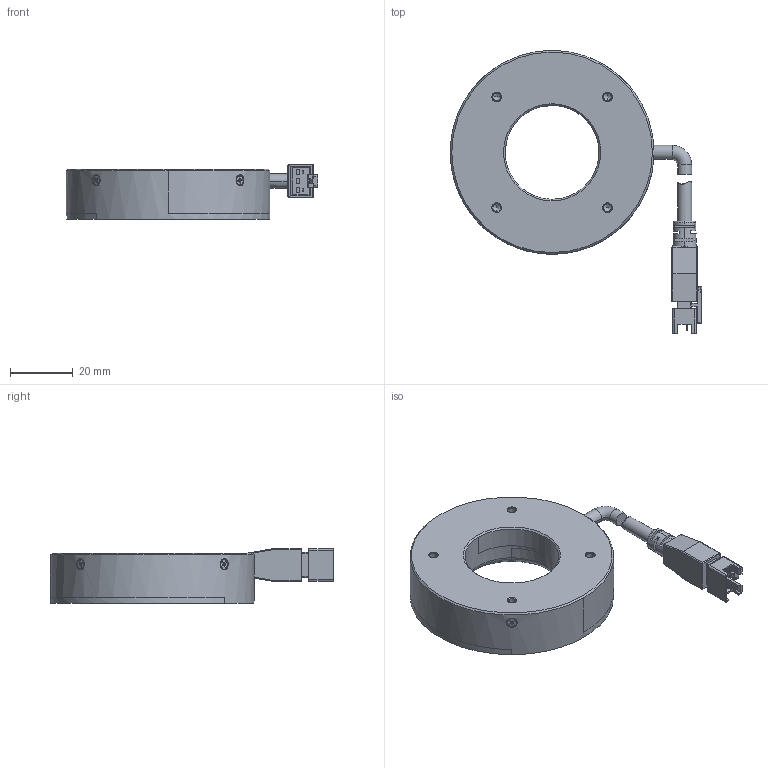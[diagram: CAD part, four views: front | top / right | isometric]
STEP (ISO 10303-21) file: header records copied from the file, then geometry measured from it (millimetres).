
FILE_DESCRIPTION((''),'2;1');
FILE_NAME('65-60','2024-01-30T10:17:06',('qiaoxuan5'),(''),'CREO PARAMETRIC BY PTC INC, 2020044','CREO PARAMETRIC BY PTC INC, 2020044','');
FILE_SCHEMA(('CONFIG_CONTROL_DESIGN'));
Length unit declared in the file: millimetre
Products named in the file (1): 65-60
Bounding box: 80.25 x 90.3 x 17.5 mm (x, y, z)
Volume: 38132.9 mm3; surface area: 20201.5 mm2
Topology: 2 solids, 39 shells, 771 faces, 1927 edges, 1192 vertices
Faces by surface type: plane 401, cylinder 235, cone 100, torus 18, sphere 8, bspline 8, extrusion 1
Entity records: 24609 total; most frequent: CARTESIAN_POINT 6253, DIRECTION 3871, ORIENTED_EDGE 3698, EDGE_CURVE 1895, AXIS2_PLACEMENT_3D 1362, VERTEX_POINT 1192, VECTOR 1147, LINE 1146
